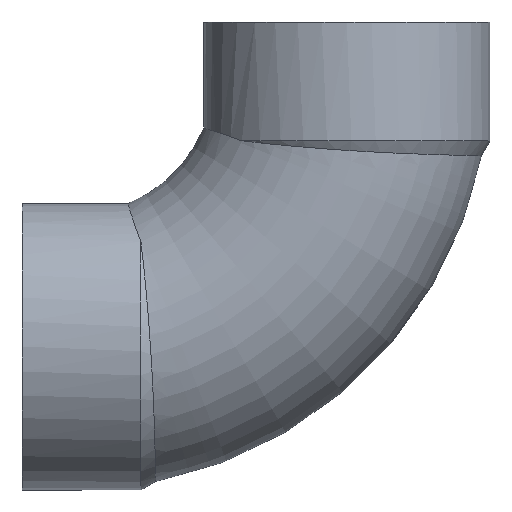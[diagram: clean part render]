
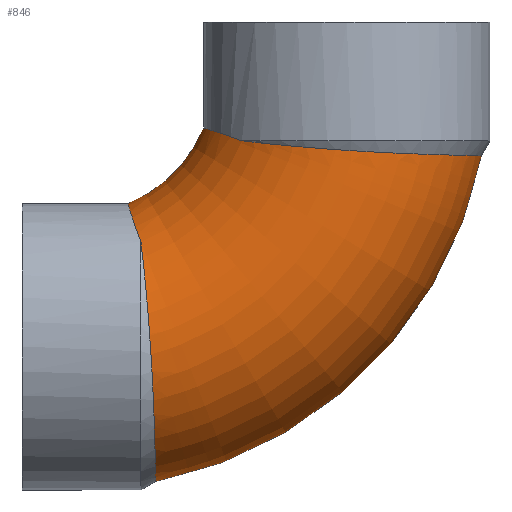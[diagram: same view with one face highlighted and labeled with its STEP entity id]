
A CAD part, top view. The second image highlights one B-rep face of the part: STEP entity #846.
In plain terms, the highlighted toroidal (fillet/blend) face has major radius 88.9 mm and minor radius 44.5 mm.
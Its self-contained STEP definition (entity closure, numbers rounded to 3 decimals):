
#161=CARTESIAN_POINT('',(25.615,-130.918,0.));
#162=VERTEX_POINT('',#161);
#163=CARTESIAN_POINT('',(130.918,-25.615,0.));
#164=VERTEX_POINT('',#163);
#165=CARTESIAN_POINT('',(0.0,0.0,0.));
#166=DIRECTION('',(0.0,0.0,1.0));
#167=DIRECTION('',(1.0,0.0,0.0));
#168=AXIS2_PLACEMENT_3D('',#165,#166,#167);
#169=CIRCLE('',#168,133.4);
#170=EDGE_CURVE('',#162,#164,#169,.T.);
#191=CARTESIAN_POINT('',(16.674,-41.15,0.));
#192=VERTEX_POINT('',#191);
#204=CARTESIAN_POINT('',(41.15,-16.674,0.));
#205=VERTEX_POINT('',#204);
#206=CARTESIAN_POINT('',(0.0,0.0,0.));
#207=DIRECTION('',(0.0,0.0,-1.0));
#208=DIRECTION('',(1.0,0.0,0.0));
#209=AXIS2_PLACEMENT_3D('',#206,#207,#208);
#210=CIRCLE('',#209,44.4);
#211=EDGE_CURVE('',#205,#192,#210,.T.);
#265=CARTESIAN_POINT('',(20.882,-53.511,31.474));
#266=VERTEX_POINT('',#265);
#274=CARTESIAN_POINT('',(16.674,-41.15,0.));
#275=CARTESIAN_POINT('',(16.674,-41.15,1.898));
#276=CARTESIAN_POINT('',(16.709,-41.267,3.797));
#277=CARTESIAN_POINT('',(16.992,-42.205,11.367));
#278=CARTESIAN_POINT('',(17.511,-43.96,16.851));
#279=CARTESIAN_POINT('',(19.019,-48.523,25.372));
#280=CARTESIAN_POINT('',(19.818,-50.855,28.614));
#281=CARTESIAN_POINT('',(20.882,-53.511,31.474));
#282=B_SPLINE_CURVE_WITH_KNOTS('',3,(#274,#275,#276,#277,#278,#279,#280,#281),.UNSPECIFIED.,.F.,.U.,(4,2,2,4),(-3.493,-2.924,-1.213,0.0),.UNSPECIFIED.);
#283=EDGE_CURVE('',#192,#266,#282,.T.);
#339=CARTESIAN_POINT('',(20.882,-53.511,31.474));
#340=CARTESIAN_POINT('',(21.21,-56.237,34.131));
#341=CARTESIAN_POINT('',(21.553,-59.287,36.435));
#342=CARTESIAN_POINT('',(22.255,-66.098,40.361));
#343=CARTESIAN_POINT('',(22.611,-69.867,41.914));
#344=CARTESIAN_POINT('',(23.396,-79.089,44.36));
#345=CARTESIAN_POINT('',(23.801,-84.604,44.814));
#346=CARTESIAN_POINT('',(24.48,-95.463,43.767));
#347=CARTESIAN_POINT('',(24.751,-100.727,42.299));
#348=CARTESIAN_POINT('',(25.163,-110.461,37.599));
#349=CARTESIAN_POINT('',(25.304,-114.86,34.416));
#350=CARTESIAN_POINT('',(25.495,-122.338,26.618));
#351=CARTESIAN_POINT('',(25.545,-125.347,22.061));
#352=CARTESIAN_POINT('',(25.605,-129.637,11.905));
#353=CARTESIAN_POINT('',(25.614,-130.813,6.374));
#354=CARTESIAN_POINT('',(25.615,-130.915,0.511));
#355=CARTESIAN_POINT('',(25.615,-130.918,0.256));
#356=CARTESIAN_POINT('',(25.615,-130.918,0.));
#357=B_SPLINE_CURVE_WITH_KNOTS('',3,(#339,#340,#341,#342,#343,#344,#345,#346,#347,#348,#349,#350,#351,#352,#353,#354,#355,#356),.UNSPECIFIED.,.F.,.U.,(4,2,2,2,2,2,2,2,4),(-21.3,-20.154,-18.933,-17.284,-15.656,-14.039,-12.414,-10.731,-10.654),.UNSPECIFIED.);
#358=EDGE_CURVE('',#266,#162,#357,.T.);
#707=CARTESIAN_POINT('',(53.511,-20.882,31.474));
#708=VERTEX_POINT('',#707);
#716=CARTESIAN_POINT('',(130.918,-25.615,0.));
#717=CARTESIAN_POINT('',(130.918,-25.615,5.547));
#718=CARTESIAN_POINT('',(129.863,-25.607,11.043));
#719=CARTESIAN_POINT('',(125.648,-25.55,21.642));
#720=CARTESIAN_POINT('',(122.424,-25.499,26.593));
#721=CARTESIAN_POINT('',(114.2,-25.285,35.033));
#722=CARTESIAN_POINT('',(109.26,-25.123,38.417));
#723=CARTESIAN_POINT('',(98.291,-24.633,43.139));
#724=CARTESIAN_POINT('',(92.353,-24.307,44.403));
#725=CARTESIAN_POINT('',(80.264,-23.491,44.588));
#726=CARTESIAN_POINT('',(74.222,-23.006,43.477));
#727=CARTESIAN_POINT('',(62.962,-21.957,39.003));
#728=CARTESIAN_POINT('',(57.835,-21.402,35.689));
#729=CARTESIAN_POINT('',(53.511,-20.882,31.474));
#730=B_SPLINE_CURVE_WITH_KNOTS('',3,(#716,#717,#718,#719,#720,#721,#722,#723,#724,#725,#726,#727,#728,#729),.UNSPECIFIED.,.F.,.U.,(4,2,2,2,2,2,4),(-10.654,-8.988,-7.231,-5.452,-3.646,-1.818,0.0),.UNSPECIFIED.);
#731=EDGE_CURVE('',#164,#708,#730,.T.);
#804=CARTESIAN_POINT('',(53.511,-20.882,31.474));
#805=CARTESIAN_POINT('',(50.701,-19.757,28.449));
#806=CARTESIAN_POINT('',(48.255,-18.926,24.996));
#807=CARTESIAN_POINT('',(44.432,-17.672,17.593));
#808=CARTESIAN_POINT('',(43.036,-17.246,13.708));
#809=CARTESIAN_POINT('',(41.493,-16.776,6.494));
#810=CARTESIAN_POINT('',(41.15,-16.674,3.249));
#811=CARTESIAN_POINT('',(41.15,-16.674,0.));
#812=B_SPLINE_CURVE_WITH_KNOTS('',3,(#804,#805,#806,#807,#808,#809,#810,#811),.UNSPECIFIED.,.F.,.U.,(4,2,2,4),(-6.984,-5.7,-4.467,-3.493),.UNSPECIFIED.);
#813=EDGE_CURVE('',#708,#205,#812,.T.);
#833=CARTESIAN_POINT('',(0.0,0.0,0.0));
#834=DIRECTION('',(0.0,0.0,1.0));
#835=DIRECTION('',(1.0,0.0,0.0));
#836=AXIS2_PLACEMENT_3D('',#833,#834,#835);
#837=TOROIDAL_SURFACE('',#836,88.9,44.5);
#838=ORIENTED_EDGE('',*,*,#170,.T.);
#839=ORIENTED_EDGE('',*,*,#731,.T.);
#840=ORIENTED_EDGE('',*,*,#813,.T.);
#841=ORIENTED_EDGE('',*,*,#211,.T.);
#842=ORIENTED_EDGE('',*,*,#283,.T.);
#843=ORIENTED_EDGE('',*,*,#358,.T.);
#844=EDGE_LOOP('',(#838,#839,#840,#841,#842,#843));
#845=FACE_OUTER_BOUND('',#844,.T.);
#846=ADVANCED_FACE('',(#845),#837,.T.);
